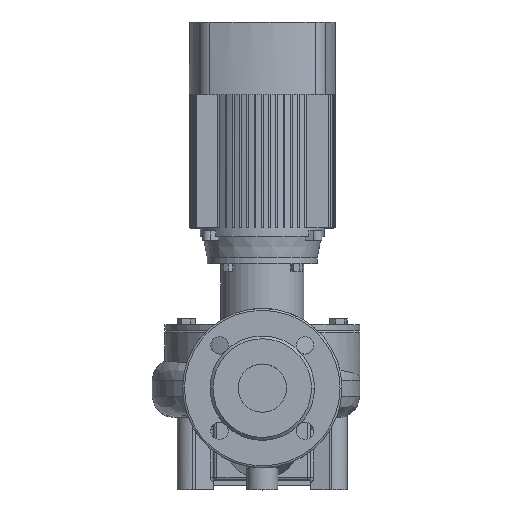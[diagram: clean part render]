
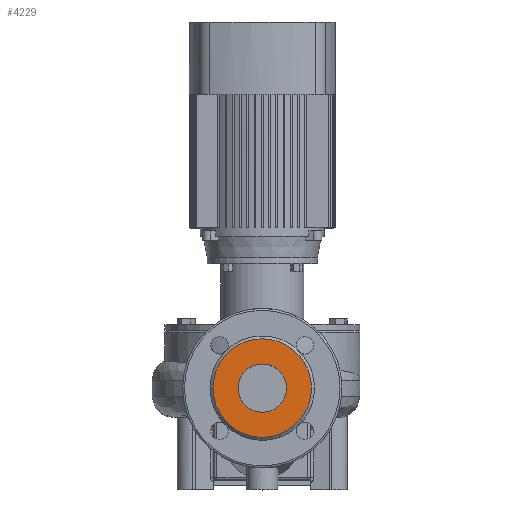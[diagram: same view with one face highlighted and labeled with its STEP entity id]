
A CAD part, top view. The second image highlights one B-rep face of the part: STEP entity #4229.
In plain terms, the highlighted planar face has unit normal (0, 0, 1).
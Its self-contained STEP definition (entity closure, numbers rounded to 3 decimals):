
#11 = AXIS2_PLACEMENT_3D ( 'NONE', #8024, #22238, #16055 ) ;
#429 = VERTEX_POINT ( 'NONE', #17233 ) ;
#619 = AXIS2_PLACEMENT_3D ( 'NONE', #1879, #25945, #15967 ) ;
#1353 = VERTEX_POINT ( 'NONE', #24296 ) ;
#1613 = FACE_BOUND ( 'NONE', #12779, .T. ) ;
#1879 = CARTESIAN_POINT ( 'NONE',  ( 0., 51., 170. ) ) ;
#3840 = FACE_OUTER_BOUND ( 'NONE', #24288, .T. ) ;
#4229 = ADVANCED_FACE ( 'NONE', ( #1613, #3840 ), #11879, .F. ) ;
#5406 = DIRECTION ( 'NONE',  ( 0., 0., 1. ) ) ;
#6321 = DIRECTION ( 'NONE',  ( 0., 0., 1. ) ) ;
#6905 = CARTESIAN_POINT ( 'NONE',  ( 0., 0., 170. ) ) ;
#8012 = ORIENTED_EDGE ( 'NONE', *, *, #19093, .F. ) ;
#8024 = CARTESIAN_POINT ( 'NONE',  ( 0., 0., 170. ) ) ;
#9376 = CARTESIAN_POINT ( 'NONE',  ( 0., 0., 170. ) ) ;
#9401 = ORIENTED_EDGE ( 'NONE', *, *, #24585, .F. ) ;
#9464 = EDGE_CURVE ( 'NONE', #1353, #17499, #12109, .T. ) ;
#9498 = DIRECTION ( 'NONE',  ( 1., 0., 0. ) ) ;
#10208 = VERTEX_POINT ( 'NONE', #11176 ) ;
#10379 = ORIENTED_EDGE ( 'NONE', *, *, #9464, .T. ) ;
#10785 = CARTESIAN_POINT ( 'NONE',  ( 0., 0., 170. ) ) ;
#11176 = CARTESIAN_POINT ( 'NONE',  ( 25., 0., 170. ) ) ;
#11879 = PLANE ( 'NONE',  #619 ) ;
#12109 = CIRCLE ( 'NONE', #16326, 51. ) ;
#12779 = EDGE_LOOP ( 'NONE', ( #9401, #8012 ) ) ;
#13071 = CIRCLE ( 'NONE', #11, 51. ) ;
#13422 = CIRCLE ( 'NONE', #15970, 25. ) ;
#13561 = EDGE_CURVE ( 'NONE', #17499, #1353, #13071, .T. ) ;
#14919 = DIRECTION ( 'NONE',  ( 0., 0., 1. ) ) ;
#15967 = DIRECTION ( 'NONE',  ( -1., 0., 0. ) ) ;
#15970 = AXIS2_PLACEMENT_3D ( 'NONE', #9376, #5406, #9498 ) ;
#16055 = DIRECTION ( 'NONE',  ( 1., 0., 0. ) ) ;
#16326 = AXIS2_PLACEMENT_3D ( 'NONE', #6905, #14919, #23095 ) ;
#17233 = CARTESIAN_POINT ( 'NONE',  ( -25., 0., 170. ) ) ;
#17499 = VERTEX_POINT ( 'NONE', #19735 ) ;
#18632 = AXIS2_PLACEMENT_3D ( 'NONE', #10785, #6321, #18829 ) ;
#18829 = DIRECTION ( 'NONE',  ( 1., 0., 0. ) ) ;
#19093 = EDGE_CURVE ( 'NONE', #429, #10208, #13422, .T. ) ;
#19735 = CARTESIAN_POINT ( 'NONE',  ( -51., 0., 170. ) ) ;
#22238 = DIRECTION ( 'NONE',  ( 0., 0., 1. ) ) ;
#23006 = ORIENTED_EDGE ( 'NONE', *, *, #13561, .T. ) ;
#23095 = DIRECTION ( 'NONE',  ( 1., 0., 0. ) ) ;
#23245 = CIRCLE ( 'NONE', #18632, 25. ) ;
#24288 = EDGE_LOOP ( 'NONE', ( #23006, #10379 ) ) ;
#24296 = CARTESIAN_POINT ( 'NONE',  ( 51., 0., 170. ) ) ;
#24585 = EDGE_CURVE ( 'NONE', #10208, #429, #23245, .T. ) ;
#25945 = DIRECTION ( 'NONE',  ( 0., 0., -1. ) ) ;
